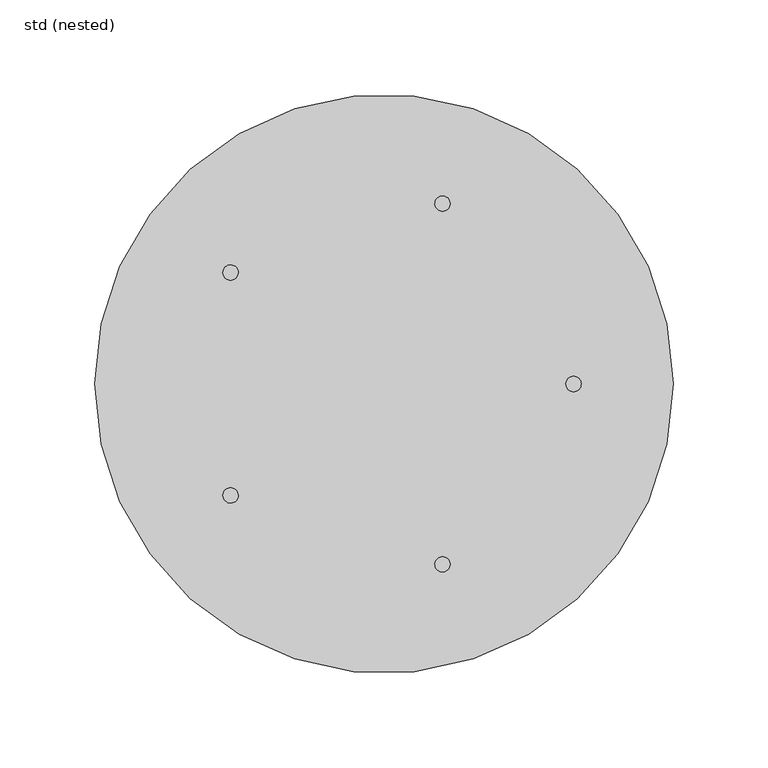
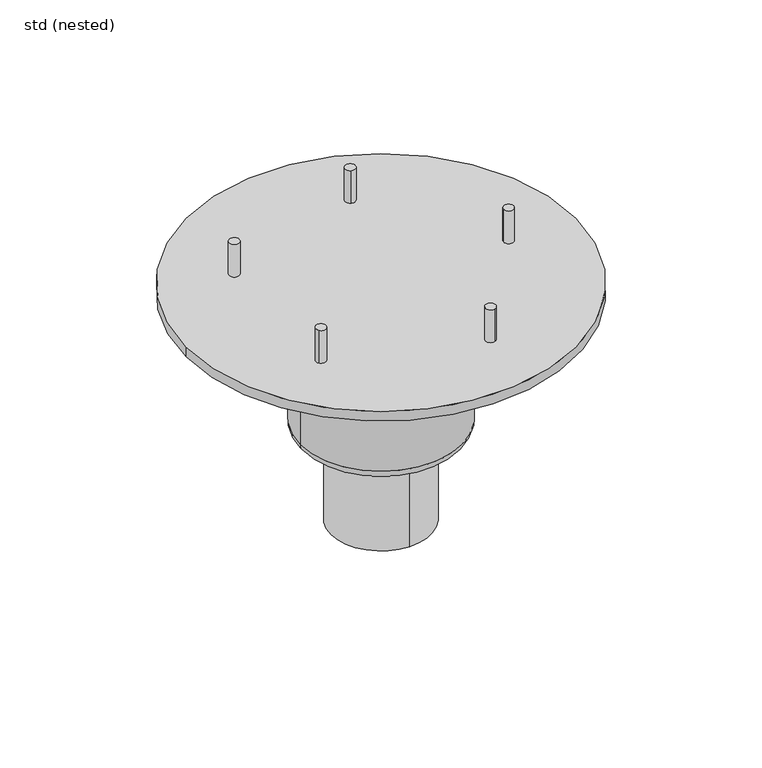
"""IFC4 building model written with IfcOpenShell, lengths in millimetres: sanitary terminal geometry, ZZZ_do not use_PF_CI_lower section for Passavant Spin_ACO : std (nested)."""

from ifc_helpers import new_model, si_unit, point, frame, frame_2d, origin, origin_with_axes, place, context, project, spatial, circle_curve, ellipse_curve, trimmed, segment, composite_curve, outline, extrude, source, transform, mapped, element, save
from ifc_brep_helpers import plane_surface, cylinder_surface, revolved_surface, advanced_brep


def std_nested_96159983(model_context):
    return source(origin(), model_context, "Body", "SolidModel", [
        extrude(outline(composite_curve([segment(trimmed(circle_curve(frame_2d((-80.9016994, -58.7785252)), 4.0), [point((-84.1377674, -61.1296662))], [point((-77.6656315, -56.4273842))], False, "CARTESIAN"), True, "CONTINUOUS"), segment(trimmed(circle_curve(frame_2d((-80.9016994, -58.7785252)), 4.0), [point((-77.6656315, -56.4273842))], [point((-84.1377674, -61.1296662))], False, "CARTESIAN"), True, "CONTINUOUS")], self_intersect=False)), origin_with_axes(), (0.0, 0.0, 1.0), 27.0),
        extrude(outline(composite_curve([segment(trimmed(circle_curve(frame_2d((30.9016994, -95.1056516)), 4.0), [point((32.1377674, -98.9098777))], [point((29.6656315, -91.3014256))], False, "CARTESIAN"), True, "CONTINUOUS"), segment(trimmed(circle_curve(frame_2d((30.9016994, -95.1056516)), 4.0), [point((29.6656315, -91.3014256))], [point((32.1377674, -98.9098777))], False, "CARTESIAN"), True, "CONTINUOUS")], self_intersect=False)), origin_with_axes(), (0.0, 0.0, 1.0), 27.0),
        extrude(outline(composite_curve([segment(trimmed(circle_curve(frame_2d((100.0, 0.0)), 4.0), [point((104.0, 0.0))], [point((96.0, 0.0))], False, "CARTESIAN"), True, "CONTINUOUS"), segment(trimmed(circle_curve(frame_2d((100.0, 0.0)), 4.0), [point((96.0, 0.0))], [point((104.0, 0.0))], False, "CARTESIAN"), True, "CONTINUOUS")], self_intersect=False)), origin_with_axes(), (0.0, 0.0, 1.0), 27.0),
        extrude(outline(composite_curve([segment(trimmed(circle_curve(frame_2d((30.9016994, 95.1056516)), 4.0), [point((32.1377674, 98.9098777))], [point((29.6656315, 91.3014256))], False, "CARTESIAN"), True, "CONTINUOUS"), segment(trimmed(circle_curve(frame_2d((30.9016994, 95.1056516)), 4.0), [point((29.6656315, 91.3014256))], [point((32.1377674, 98.9098777))], False, "CARTESIAN"), True, "CONTINUOUS")], self_intersect=False)), origin_with_axes(), (0.0, 0.0, 1.0), 27.0),
        extrude(outline(composite_curve([segment(trimmed(circle_curve(frame_2d((-80.9016994, 58.7785252)), 4.0), [point((-84.1377674, 61.1296662))], [point((-77.6656315, 56.4273842))], False, "CARTESIAN"), True, "CONTINUOUS"), segment(trimmed(circle_curve(frame_2d((-80.9016994, 58.7785252)), 4.0), [point((-77.6656315, 56.4273842))], [point((-84.1377674, 61.1296662))], False, "CARTESIAN"), True, "CONTINUOUS")], self_intersect=False)), origin_with_axes(), (0.0, 0.0, 1.0), 27.0),
        advanced_brep(
        [(0.0, -39.0, -195.0), (0.0, 39.0, -195.0), (0.0, 39.0, -120.0), (39.0, 0.0, -120.0), (0.0, -39.0, -120.0), (-39.0, 0.0, -120.0), (-152.5, 0.0, -8.0), (152.5, 0.0, -8.0), (63.3, 0.0, -8.0), (-49.8587003, 39.0, -8.0), (-63.3, 0.0, -8.0), (-49.8587003, -39.0, -8.0), (-152.5, 0.0, 0.0), (152.5, 0.0, 0.0), (-55.3, 0.0, -120.0), (55.3, 0.0, -120.0), (-63.3, 0.0, -112.0), (63.3, 0.0, -112.0), (-63.3, 0.0, -16.0)],
        [
            (0, 1, circle_curve(frame((0.0, 0.0, -195.0), z_axis=(0.0, 0.0, -1.0), x_axis=(0.0, 1.0, 0.0)), 39.0)),
            (1, 0, circle_curve(frame((0.0, 0.0, -195.0), z_axis=(0.0, 0.0, -1.0), x_axis=(0.0, 1.0, 0.0)), 39.0)),
            (1, 2),
            (2, 3, circle_curve(frame((0.0, 0.0, -120.0), z_axis=(0.0, 0.0, -1.0), x_axis=(0.0, 1.0, 0.0)), 39.0)),
            (3, 4, circle_curve(frame((0.0, 0.0, -120.0), z_axis=(0.0, 0.0, -1.0), x_axis=(0.0, 1.0, 0.0)), 39.0)),
            (4, 0),
            (4, 5, circle_curve(frame((0.0, 0.0, -120.0), z_axis=(0.0, 0.0, -1.0), x_axis=(0.0, 1.0, 0.0)), 39.0)),
            (5, 2, circle_curve(frame((0.0, 0.0, -120.0), z_axis=(0.0, 0.0, -1.0), x_axis=(0.0, 1.0, 0.0)), 39.0)),
            (6, 7, circle_curve(frame((0.0, 0.0, -8.0), z_axis=(0.0, 0.0, -1.0), x_axis=(1.0, 0.0, 0.0)), 152.5)),
            (7, 6, circle_curve(frame((0.0, 0.0, -8.0), z_axis=(0.0, 0.0, -1.0), x_axis=(1.0, 0.0, 0.0)), 152.5)),
            (8, 9, circle_curve(frame((0.0, 0.0, -8.0), z_axis=(0.0, 0.0, 1.0), x_axis=(1.0, 0.0, 0.0)), 63.3)),
            (9, 10, circle_curve(frame((0.0, 0.0, -8.0), z_axis=(0.0, 0.0, 1.0), x_axis=(1.0, 0.0, 0.0)), 63.3)),
            (10, 11, circle_curve(frame((0.0, 0.0, -8.0), z_axis=(0.0, 0.0, 1.0), x_axis=(1.0, 0.0, 0.0)), 63.3)),
            (11, 8, circle_curve(frame((0.0, 0.0, -8.0), z_axis=(0.0, 0.0, 1.0), x_axis=(1.0, 0.0, 0.0)), 63.3)),
            (12, 13, circle_curve(origin_with_axes(), 152.5)),
            (13, 12, circle_curve(origin_with_axes(), 152.5)),
            (7, 13),
            (12, 6),
            (14, 15, circle_curve(frame((0.0, 0.0, -120.0), z_axis=(0.0, 0.0, -1.0), x_axis=(1.0, 0.0, 0.0)), 55.3)),
            (15, 3),
            (5, 14),
            (15, 14, circle_curve(frame((0.0, 0.0, -120.0), z_axis=(0.0, 0.0, -1.0), x_axis=(1.0, 0.0, 0.0)), 55.3)),
            (14, 16, circle_curve(frame((-55.3, 0.0, -112.0), z_axis=(0.0, 1.0, 0.0), x_axis=(-1.0, 0.0, 0.0)), 8.0)),
            (16, 17, circle_curve(frame((0.0, 0.0, -112.0), z_axis=(0.0, 0.0, -1.0), x_axis=(1.0, 0.0, 0.0)), 63.3)),
            (17, 15, circle_curve(frame((55.3, 0.0, -112.0), z_axis=(0.0, 1.0, 0.0), x_axis=(1.0, 0.0, 0.0)), 8.0)),
            (17, 16, circle_curve(frame((0.0, 0.0, -112.0), z_axis=(0.0, 0.0, -1.0), x_axis=(1.0, 0.0, 0.0)), 63.3)),
            (16, 18),
            (18, 10),
            (8, 17),
        ],
        [
            plane_surface(frame((0.0, 39.0, -195.0), z_axis=(0.0, 0.0, -1.0), x_axis=(1.0, 0.0, 0.0))),
            cylinder_surface(frame((0.0, 0.0, -120.0), z_axis=(0.0, 0.0, -1.0), x_axis=(0.0, 1.0, 0.0)), 39.0),
            plane_surface(frame((152.5, 0.0, -8.0), z_axis=(0.0, 0.0, -1.0), x_axis=(0.0, -1.0, 0.0))),
            plane_surface(frame((152.5, 0.0, 0.0), z_axis=(0.0, 0.0, 1.0), x_axis=(0.0, 1.0, 0.0))),
            cylinder_surface(frame((0.0, 0.0, -8.0), z_axis=(0.0, 0.0, 1.0), x_axis=(1.0, 0.0, 0.0)), 152.5),
            plane_surface(frame((0.0, 0.0, -120.0), z_axis=(0.0, 0.0, -1.0), x_axis=(1.0, 0.0, 0.0))),
            revolved_surface(trimmed(ellipse_curve(frame((55.3, 0.0, -112.0), z_axis=(0.0, -1.0, 0.0), x_axis=(1.0, 0.0, 0.0)), 8.0, 8.0), [point((55.3, 0.0, -120.0))], [point((63.3, 0.0, -112.0))], True, "CARTESIAN"), (0.0, 0.0, -265.0), (0.0, 0.0, 1.0)),
            cylinder_surface(frame((0.0, 0.0, -265.0), z_axis=(0.0, 0.0, 1.0), x_axis=(1.0, 0.0, 0.0)), 63.3),
        ],
        [
            (0, [[1, 2]]),
            (1, [[-2, 3, 4, 5, 6]]),
            (1, [[-1, -6, 7, 8, -3]]),
            (2, [[9, 10], [11, 12, 13, 14]]),
            (3, [[15, 16]]),
            (4, [[-10, 17, -15, 18]]),
            (4, [[-9, -18, -16, -17]]),
            (5, [[19, 20, -4, -8, 21]]),
            (5, [[22, -21, -7, -5, -20]]),
            (6, [[-19, 23, 24, 25]]),
            (6, [[-22, -25, 26, -23]]),
            (7, [[-24, 27, 28, -12, -11, 29]]),
            (7, [[-26, -29, -14, -13, -28, -27]]),
        ],
    ),
    ])


if __name__ == "__main__":
    model = new_model("IFC4")
    model_context = context("Model", 3, world=origin())
    ifc_project = project(units=[si_unit("LENGTHUNIT", "METRE", prefix="MILLI")], contexts=[model_context])
    site = spatial("IfcSite", under=ifc_project)
    building = spatial("IfcBuilding", under=site)
    placement = place(None, origin())
    std_nested_shape = std_nested_96159983(model_context)
    element("IfcSanitaryTerminal", 1, ObjectType="ZZZ_do not use_PF_CI_lower section for Passavant Spin_ACO : std (nested)", at=placement, inside=building, context=model_context, shape_type="MappedRepresentation", body=[
        mapped(std_nested_shape, transform((0.0, 0.0, 0.0), x_axis=(1.0, 0.0, 0.0), y_axis=(0.0, 1.0, 0.0), z_axis=(0.0, 0.0, 1.0))),
    ])
    save(model, "model.ifc")
